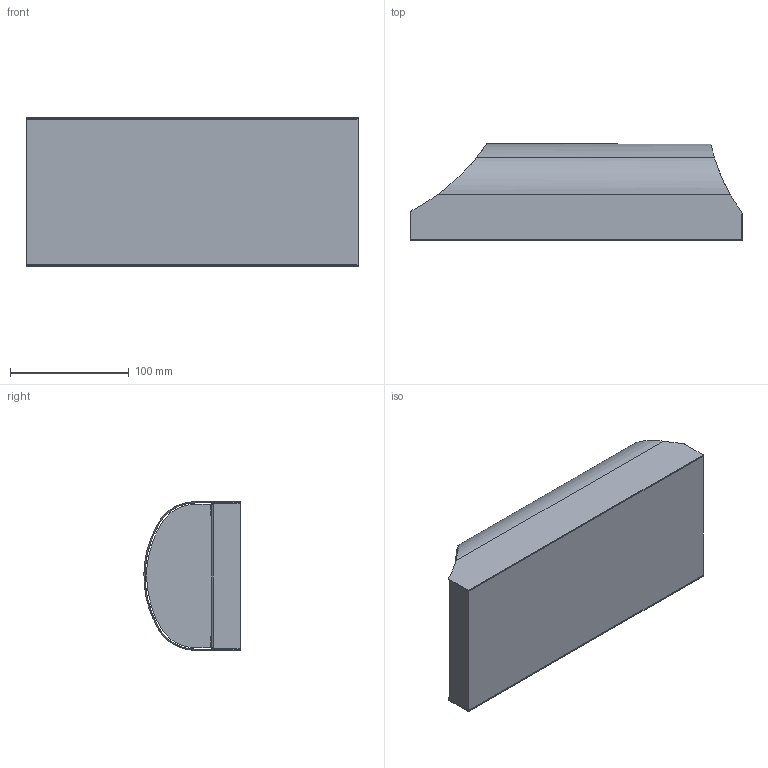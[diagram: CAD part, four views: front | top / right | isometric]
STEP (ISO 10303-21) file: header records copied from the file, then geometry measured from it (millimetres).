
FILE_DESCRIPTION(/* description */ (''),/* implementation_level */ '2;1');
FILE_NAME(/* name */ 'C:\Users\s.crippa\Desktop\1649-32-0000-D0LE_Shrinkwrap_1.stp',/* time_stamp */ '2020-12-15T11:29:42+01:00',/* author */ ('s.crippa'),/* organization */ (''),/* preprocessor_version */ 'ST-DEVELOPER v18.1',/* originating_system */ 'Autodesk Inventor 2020',/* authorisation */ '');
FILE_SCHEMA (('AUTOMOTIVE_DESIGN { 1 0 10303 214 3 1 1 }'));
Length unit declared in the file: millimetre
Products named in the file (1): 1649-32-0000-D0LE_Shrinkwrap_1
Bounding box: 280 x 81.09 x 125.24 mm (x, y, z)
Volume: 914800 mm3; surface area: 249903.5 mm2
Topology: 4 solids, 4 shells, 110 faces, 300 edges, 192 vertices
Faces by surface type: plane 60, cylinder 46, bspline 4
Entity records: 3915 total; most frequent: CARTESIAN_POINT 899, ORIENTED_EDGE 600, DIRECTION 586, EDGE_CURVE 300, AXIS2_PLACEMENT_3D 199, VERTEX_POINT 192, LINE 188, VECTOR 188
